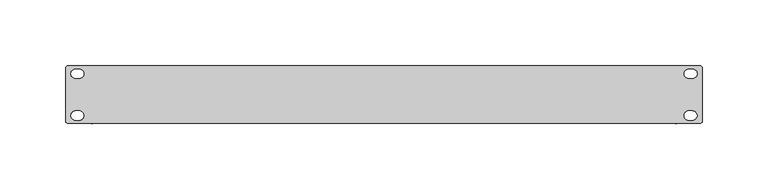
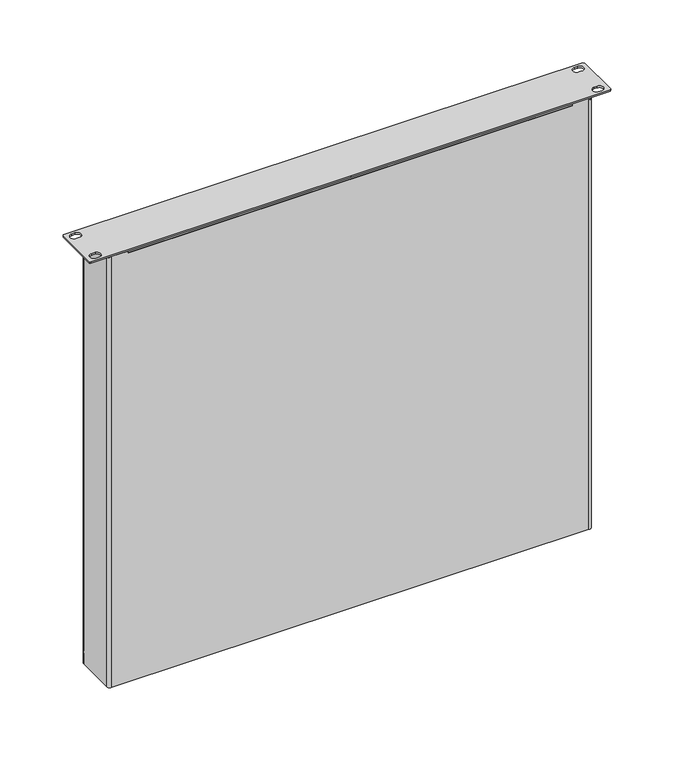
"""IFC4 building model written with IfcOpenShell, lengths in millimetres: proxy geometry, A RK TCR +COMMUN : A RK TCR +COMMUN."""

from ifc_helpers import new_model, si_unit, point, frame, frame_2d, origin, origin_with_axes, place, context, project, spatial, polyline, circle_curve, trimmed, segment, composite_curve, outline, extrude, source, transform, mapped, element, save
from ifc_brep_helpers import plane_surface, cylinder_surface, advanced_brep


def electrical_equipment_423b28fd(model_context):
    return source(origin(), model_context, "Body", "SolidModel", [
        extrude(outline(composite_curve([segment(trimmed(circle_curve(frame_2d((175.8425927, 35.141806)), 4.0115685), [point((171.8310242, 35.141806))], [point((179.8541612, 35.141806))], False, "CARTESIAN"), True, "CONTINUOUS"), segment(trimmed(circle_curve(frame_2d((175.8425927, 35.141806)), 4.0115685), [point((179.8541612, 35.141806))], [point((171.8310242, 35.141806))], False, "CARTESIAN"), True, "CONTINUOUS")], self_intersect=False)), frame((0.0, 0.0, 8.3), z_axis=(0.0, 0.0, 1.0), x_axis=(1.0, 0.0, 0.0)), (0.0, 0.0, 1.0), 2.5),
        extrude(outline(composite_curve([segment(trimmed(circle_curve(frame_2d((-174.1070655, 35.063681)), 4.0115685), [point((-178.118634, 35.063681))], [point((-170.095497, 35.063681))], False, "CARTESIAN"), True, "CONTINUOUS"), segment(trimmed(circle_curve(frame_2d((-174.1070655, 35.063681)), 4.0115685), [point((-170.095497, 35.063681))], [point((-178.118634, 35.063681))], False, "CARTESIAN"), True, "CONTINUOUS")], self_intersect=False)), frame((0.0, 0.0, 8.3), z_axis=(0.0, 0.0, 1.0), x_axis=(1.0, 0.0, 0.0)), (0.0, 0.0, 1.0), 2.5),
        extrude(outline(composite_curve([segment(trimmed(circle_curve(frame_2d((-130.4596642, 22.66)), 4.0115685), [point((-134.4712327, 22.66))], [point((-126.4480956, 22.66))], False, "CARTESIAN"), True, "CONTINUOUS"), segment(trimmed(circle_curve(frame_2d((-130.4596642, 22.66)), 4.0115685), [point((-126.4480956, 22.66))], [point((-134.4712327, 22.66))], False, "CARTESIAN"), True, "CONTINUOUS")], self_intersect=False)), origin_with_axes(), (0.0, 0.0, 1.0), 10.8),
        extrude(outline(polyline([(242.2302016, 1.0), (241.2302016, 0.0), (1.1174526, 0.0), (-239.3697984, 0.0), (-240.3697984, 1.0), (-240.3697984, 42.66), (-239.3697984, 43.66), (154.0869854, 43.66), (241.2302016, 43.66), (242.2302016, 42.66), (242.2302016, 1.0)]), holes=[composite_curve([segment(polyline([(-230.1397984, 41.21), (-233.1397984, 41.21)]), True, "CONTINUOUS"), segment(trimmed(circle_curve(frame_2d((-233.1397984, 37.71)), 3.5), [point((-233.1397984, 41.21))], [point((-233.1397984, 34.21))], True, "CARTESIAN"), True, "CONTINUOUS"), segment(polyline([(-233.1397984, 34.21), (-230.1397984, 34.21)]), True, "CONTINUOUS"), segment(trimmed(circle_curve(frame_2d((-230.1397984, 37.71)), 3.5), [point((-230.1397984, 34.21))], [point((-230.1397984, 41.21))], True, "CARTESIAN"), True, "CONTINUOUS")], self_intersect=False), composite_curve([segment(polyline([(-229.6066754, 9.46), (-233.1397984, 9.46)]), True, "CONTINUOUS"), segment(trimmed(circle_curve(frame_2d((-233.1397984, 5.96)), 3.5), [point((-233.1397984, 9.46))], [point((-233.1397984, 2.46))], True, "CARTESIAN"), True, "CONTINUOUS"), segment(polyline([(-233.1397984, 2.46), (-229.6066754, 2.46)]), True, "CONTINUOUS"), segment(trimmed(circle_curve(frame_2d((-230.3501238, 5.96)), 3.5780883), [point((-229.6066754, 2.46))], [point((-229.6066754, 9.46))], True, "CARTESIAN"), True, "CONTINUOUS")], self_intersect=False), composite_curve([segment(trimmed(circle_curve(frame_2d((232.0147984, 37.71)), 3.5), [point((232.0147984, 41.21))], [point((232.0147984, 34.21))], True, "CARTESIAN"), True, "CONTINUOUS"), segment(polyline([(232.0147984, 34.21), (235.0147984, 34.21)]), True, "CONTINUOUS"), segment(trimmed(circle_curve(frame_2d((235.0147984, 37.71)), 3.5), [point((235.0147984, 34.21))], [point((235.0147984, 41.21))], True, "CARTESIAN"), True, "CONTINUOUS"), segment(polyline([(235.0147984, 41.21), (232.0147984, 41.21)]), True, "CONTINUOUS")], self_intersect=False), composite_curve([segment(trimmed(circle_curve(frame_2d((232.1469988, 5.96)), 3.5780883), [point((231.4035504, 9.46))], [point((231.4035504, 2.46))], True, "CARTESIAN"), True, "CONTINUOUS"), segment(polyline([(231.4035504, 2.46), (234.9366734, 2.46)]), True, "CONTINUOUS"), segment(trimmed(circle_curve(frame_2d((234.9366734, 5.96)), 3.5), [point((234.9366734, 2.46))], [point((234.9366734, 9.46))], True, "CARTESIAN"), True, "CONTINUOUS"), segment(polyline([(234.9366734, 9.46), (231.4035504, 9.46)]), True, "CONTINUOUS")], self_intersect=False)]), frame((0.0, 0.0, 432.3), z_axis=(0.0, 0.0, 1.0), x_axis=(1.0, 0.0, 0.0)), (0.0, 0.0, 1.0), 1.5),
        advanced_brep(
        [(-223.0697984, 39.66, 10.8), (-220.0697984, 42.66, 10.8), (214.9302016, 42.66, 10.8), (222.2096469, 42.66, 10.8), (224.9302016, 39.66, 10.8), (224.9302016, 2.5, 10.8), (221.6802016, 0.0, 10.8), (-219.8197984, 0.0, 10.8), (-223.0697984, 2.5, 10.8), (-205.0697984, 42.66, 432.3), (-220.0697984, 42.66, 432.3), (-221.6802016, 42.1911265, 432.3), (-221.6802016, 0.2070735, 432.3), (-219.8197984, 0.0, 432.3), (-205.0697984, 0.0, 432.3), (-205.0697984, 0.5332309, 432.3), (206.9302016, 0.5332309, 432.3), (206.9302016, 0.0, 432.3), (221.6802016, 0.0, 432.3), (221.6802016, 42.66, 432.3), (214.9302016, 42.66, 432.3), (206.9302016, 42.66, 432.3), (206.9302016, 42.1267691, 432.3), (-205.0697984, 42.1267691, 432.3), (-223.0697984, 39.66, 21.3), (-220.0697984, 42.66, 21.3), (-220.0697984, 42.66, 23.3), (-223.0697984, 39.66, 23.3), (-223.0697984, 39.66, 430.8), (-221.6802016, 42.1911265, 430.8), (-213.0697984, 42.66, 21.3), (-213.0697984, 42.66, 23.3), (-205.0697984, 42.66, 430.3), (206.9302016, 42.66, 430.3), (214.9302016, 42.66, 23.3), (213.0697984, 42.66, 23.3), (213.0697984, 42.66, 21.3), (214.9302016, 42.66, 21.3), (222.2096469, 42.66, 21.3), (221.6802016, 42.66, 430.8), (222.2096469, 42.66, 430.8), (222.2096469, 42.66, 23.3), (223.0697984, 42.4447297, 21.3), (223.0697984, 42.4447297, 23.3), (224.9302016, 39.66, 430.8), (224.9302016, 2.5, 430.8), (221.6802016, 0.0, 430.8), (206.9302016, 0.0, 430.3), (-205.0697984, 0.0, 430.3), (-221.6802016, 0.2070735, 430.8), (-223.0697984, 2.5, 430.8), (-213.0697984, 39.66, 23.3), (-213.0697984, 39.66, 21.3), (213.0697984, 39.66, 23.3), (213.0697984, 39.66, 21.3), (223.0697984, 39.66, 21.3), (223.0697984, 39.66, 23.3), (206.9302016, 42.1267691, 430.3), (-205.0697984, 42.1267691, 430.3), (-205.0697984, 0.5332309, 430.3), (206.9302016, 0.5332309, 430.3)],
        [
            (0, 1, circle_curve(frame((-220.0697984, 39.66, 10.8), z_axis=(0.0, 0.0, -1.0), x_axis=(-1.0, 0.0, 0.0)), 3.0)),
            (1, 2),
            (2, 3),
            (3, 4, circle_curve(frame((221.9158498, 39.66, 10.8), z_axis=(0.0, 0.0, -1.0), x_axis=(-1.0, 0.0, 0.0)), 3.0143518)),
            (4, 5),
            (5, 6, circle_curve(frame((222.3436632, 2.5, 10.8), z_axis=(0.0, 0.0, -1.0), x_axis=(-1.0, 0.0, 0.0)), 2.5865385)),
            (6, 7),
            (7, 8, circle_curve(frame((-220.4832599, 2.5, 10.8), z_axis=(0.0, 0.0, -1.0), x_axis=(-1.0, 0.0, 0.0)), 2.5865385)),
            (8, 0),
            (9, 10),
            (10, 11, circle_curve(frame((-220.0697984, 39.66, 432.3), z_axis=(0.0, 0.0, 1.0), x_axis=(-1.0, 0.0, 0.0)), 3.0)),
            (11, 12),
            (12, 13, circle_curve(frame((-220.4832599, 2.5, 432.3), z_axis=(0.0, 0.0, 1.0), x_axis=(-1.0, 0.0, 0.0)), 2.5865385)),
            (13, 14),
            (14, 15),
            (15, 16),
            (16, 17),
            (17, 18),
            (18, 19),
            (19, 20),
            (20, 21),
            (21, 22),
            (22, 23),
            (23, 9),
            (0, 24),
            (24, 25, circle_curve(frame((-220.0697984, 39.66, 21.3), z_axis=(0.0, 0.0, -1.0), x_axis=(-1.0, 0.0, 0.0)), 3.0)),
            (25, 1),
            (10, 26),
            (26, 27, circle_curve(frame((-220.0697984, 39.66, 23.3), z_axis=(0.0, 0.0, 1.0), x_axis=(-1.0, 0.0, 0.0)), 3.0)),
            (27, 28),
            (28, 29, circle_curve(frame((-220.0697984, 39.66, 430.8), z_axis=(0.0, 0.0, -1.0), x_axis=(-1.0, 0.0, 0.0)), 3.0)),
            (29, 11),
            (25, 30),
            (30, 31),
            (31, 26),
            (9, 32),
            (32, 33),
            (33, 21),
            (20, 34),
            (34, 35),
            (35, 36),
            (36, 37),
            (37, 2),
            (37, 38),
            (38, 3),
            (19, 39),
            (39, 40),
            (40, 41),
            (41, 34),
            (38, 42, circle_curve(frame((221.9158498, 39.66, 21.3), z_axis=(0.0, 0.0, -1.0), x_axis=(-1.0, 0.0, 0.0)), 3.0143518)),
            (42, 43),
            (43, 41, circle_curve(frame((221.9158498, 39.66, 23.3), z_axis=(0.0, 0.0, 1.0), x_axis=(-1.0, 0.0, 0.0)), 3.0143518)),
            (40, 44, circle_curve(frame((221.9158498, 39.66, 430.8), z_axis=(0.0, 0.0, -1.0), x_axis=(-1.0, 0.0, 0.0)), 3.0143518)),
            (44, 4),
            (44, 45),
            (45, 5),
            (45, 46, circle_curve(frame((222.3436632, 2.5, 430.8), z_axis=(0.0, 0.0, -1.0), x_axis=(-1.0, 0.0, 0.0)), 2.5865385)),
            (46, 6),
            (46, 18),
            (17, 47),
            (47, 48),
            (48, 14),
            (13, 7),
            (12, 49),
            (49, 50, circle_curve(frame((-220.4832599, 2.5, 430.8), z_axis=(0.0, 0.0, -1.0), x_axis=(-1.0, 0.0, 0.0)), 2.5865385)),
            (50, 8),
            (50, 28),
            (27, 24),
            (51, 31),
            (30, 52),
            (52, 51),
            (52, 24),
            (27, 51),
            (53, 54),
            (54, 36),
            (35, 53),
            (55, 56),
            (56, 43),
            (42, 55),
            (53, 56),
            (55, 54),
            (22, 57),
            (57, 58),
            (58, 23),
            (58, 32),
            (57, 33),
            (15, 59),
            (59, 60),
            (60, 16),
            (48, 59),
            (47, 60),
            (46, 39),
            (29, 49),
        ],
        [
            plane_surface(frame((-223.0697984, 39.66, 10.8), z_axis=(0.0, 0.0, -1.0), x_axis=(0.0, 1.0, 0.0))),
            plane_surface(frame((-223.0697984, 39.66, 432.3), z_axis=(0.0, 0.0, 1.0), x_axis=(0.0, -1.0, 0.0))),
            cylinder_surface(frame((-220.0697984, 39.66, 432.3), z_axis=(0.0, 0.0, -1.0), x_axis=(-1.0, 0.0, 0.0)), 3.0),
            plane_surface(frame((-220.0697984, 42.66, 10.8), z_axis=(0.0, 1.0, 0.0), x_axis=(0.0, 0.0, 1.0))),
            plane_surface(frame((214.9302016, 42.66, 10.8), z_axis=(0.0, 1.0, 0.0), x_axis=(0.0, 0.0, 1.0))),
            cylinder_surface(frame((221.9158498, 39.66, 432.3), z_axis=(0.0, 0.0, -1.0), x_axis=(-1.0, 0.0, 0.0)), 3.0143518),
            plane_surface(frame((224.9302016, 39.66, 10.8), z_axis=(1.0, 0.0, 0.0), x_axis=(0.0, 0.0, 1.0))),
            cylinder_surface(frame((222.3436632, 2.5, 432.3), z_axis=(0.0, 0.0, -1.0), x_axis=(-1.0, 0.0, 0.0)), 2.5865385),
            plane_surface(frame((221.6802016, 0.0, 10.8), z_axis=(0.0, -1.0, 0.0), x_axis=(0.0, 0.0, 1.0))),
            cylinder_surface(frame((-220.4832599, 2.5, 432.3), z_axis=(0.0, 0.0, -1.0), x_axis=(-1.0, 0.0, 0.0)), 2.5865385),
            plane_surface(frame((-223.0697984, 2.5, 10.8), z_axis=(-1.0, 0.0, 0.0), x_axis=(0.0, 0.0, 1.0))),
            plane_surface(frame((-213.0697984, 39.66, 21.3), z_axis=(-1.0, 0.0, 0.0), x_axis=(0.0, 0.0, -1.0))),
            plane_surface(frame((-213.0697984, 39.66, 23.3), z_axis=(0.0, 1.0, 0.0), x_axis=(-1.0, 0.0, 0.0))),
            plane_surface(frame((-213.0697984, 39.66, 21.3), z_axis=(0.0, 0.0, 1.0), x_axis=(-1.0, 0.0, 0.0))),
            plane_surface(frame((-213.0697984, 42.66, 23.3), z_axis=(0.0, 0.0, -1.0), x_axis=(-1.0, 0.0, 0.0))),
            plane_surface(frame((213.0697984, 39.66, 23.3), z_axis=(1.0, 0.0, 0.0), x_axis=(0.0, 1.0, 0.0))),
            plane_surface(frame((223.0697984, 39.66, 23.3), z_axis=(-1.0, 0.0, 0.0), x_axis=(0.0, -1.0, 0.0))),
            plane_surface(frame((213.0697984, 39.66, 21.3), z_axis=(0.0, 1.0, 0.0), x_axis=(1.0, 0.0, 0.0))),
            plane_surface(frame((213.0697984, 42.66, 21.3), z_axis=(0.0, 0.0, 1.0), x_axis=(1.0, 0.0, 0.0))),
            plane_surface(frame((213.0697984, 39.66, 23.3), z_axis=(0.0, 0.0, -1.0), x_axis=(1.0, 0.0, 0.0))),
            plane_surface(frame((-205.0697984, 42.1267691, 432.3), z_axis=(0.0, 1.0, 0.0), x_axis=(0.0, 0.0, -1.0))),
            plane_surface(frame((-205.0697984, 42.1267691, 432.3), z_axis=(1.0, 0.0, 0.0), x_axis=(0.0, 1.0, 0.0))),
            plane_surface(frame((-205.0697984, 42.1267691, 430.3), z_axis=(0.0, 0.0, 1.0), x_axis=(0.0, 1.0, 0.0))),
            plane_surface(frame((206.9302016, 42.1267691, 430.3), z_axis=(-1.0, 0.0, 0.0), x_axis=(0.0, 1.0, 0.0))),
            plane_surface(frame((206.9302016, 0.5332309, 432.3), z_axis=(0.0, -1.0, 0.0), x_axis=(1.0, 0.0, 0.0))),
            plane_surface(frame((-205.0697984, 0.5332309, 430.3), z_axis=(1.0, 0.0, 0.0), x_axis=(0.0, -1.0, 0.0))),
            plane_surface(frame((206.9302016, 0.5332309, 430.3), z_axis=(0.0, 0.0, 1.0), x_axis=(0.0, -1.0, 0.0))),
            plane_surface(frame((206.9302016, 0.5332309, 432.3), z_axis=(-1.0, 0.0, 0.0), x_axis=(0.0, -1.0, 0.0))),
            plane_surface(frame((221.6802016, 42.66, 432.3), z_axis=(1.0, 0.0, 0.0), x_axis=(0.0, 0.0, -1.0))),
            plane_surface(frame((221.6802016, 42.66, 430.8), z_axis=(0.0, 0.0, 1.0), x_axis=(1.0, 0.0, 0.0))),
            plane_surface(frame((-221.6802016, 0.0, 432.3), z_axis=(-1.0, 0.0, 0.0), x_axis=(0.0, -1.0, 0.0))),
            plane_surface(frame((-221.6802016, -0.2774181, 430.8), z_axis=(0.0, 0.0, 1.0), x_axis=(-1.0, 0.0, 0.0))),
        ],
        [
            (0, [[1, 2, 3, 4, 5, 6, 7, 8, 9]]),
            (1, [[10, 11, 12, 13, 14, 15, 16, 17, 18, 19, 20, 21, 22, 23, 24]]),
            (2, [[-1, 25, 26, 27]]),
            (2, [[28, 29, 30, 31, 32, -11]]),
            (3, [[-2, -27, 33, 34, 35, -28, -10, 36, 37, 38, -21, 39, 40, 41, 42, 43]]),
            (4, [[-3, -43, 44, 45]]),
            (4, [[-39, -20, 46, 47, 48, 49]]),
            (5, [[-4, -45, 50, 51, 52, -48, 53, 54]]),
            (6, [[-5, -54, 55, 56]]),
            (7, [[-6, -56, 57, 58]]),
            (8, [[-7, -58, 59, -18, 60, 61, 62, -14, 63]]),
            (9, [[-8, -63, -13, 64, 65, 66]]),
            (10, [[-9, -66, 67, -30, 68, -25]]),
            (11, [[69, -34, 70, 71]]),
            (12, [[-71, 72, -68, 73]]),
            (13, [[-70, -33, -26, -72]]),
            (14, [[-69, -73, -29, -35]]),
            (15, [[74, 75, -41, 76]]),
            (16, [[77, 78, -51, 79]]),
            (17, [[-74, 80, -77, 81]]),
            (18, [[-75, -81, -79, -50, -44, -42]]),
            (19, [[-76, -40, -49, -52, -78, -80]]),
            (20, [[82, 83, 84, -23]]),
            (21, [[-84, 85, -36, -24]]),
            (22, [[-83, 86, -37, -85]]),
            (23, [[-82, -22, -38, -86]]),
            (24, [[87, 88, 89, -16]]),
            (25, [[-87, -15, -62, 90]]),
            (26, [[-88, -90, -61, 91]]),
            (27, [[-89, -91, -60, -17]]),
            (28, [[92, -46, -19, -59]]),
            (29, [[-92, -57, -55, -53, -47]]),
            (30, [[93, -64, -12, -32]]),
            (31, [[-93, -31, -67, -65]]),
        ],
    ),
        extrude(outline(polyline([(44.6373084, 9.5), (-87.3626916, 9.5), (-87.3626916, 27.0), (44.6373084, 27.0), (44.6373084, 9.5)])), frame((0.0, 0.0, 10.8), z_axis=(0.0, 0.0, 1.0), x_axis=(1.0, 0.0, 0.0)), (0.0, 0.0, 1.0), 5.0),
    ])


if __name__ == "__main__":
    model = new_model("IFC4")
    model_context = context("Model", 3, world=origin())
    ifc_project = project(units=[si_unit("LENGTHUNIT", "METRE", prefix="MILLI")], contexts=[model_context])
    site = spatial("IfcSite", under=ifc_project)
    building = spatial("IfcBuilding", under=site)
    placement = place(None, origin())
    electrical_equipment_shape = electrical_equipment_423b28fd(model_context)
    element("IfcBuildingElementProxy", 1, Name="A RK TCR +COMMUN : A RK TCR +COMMUN", ObjectType="A RK TCR +COMMUN : A RK TCR +COMMUN", at=placement, inside=building, context=model_context, shape_type="MappedRepresentation", body=[
        mapped(electrical_equipment_shape, transform((0.0, 0.0, 0.0), x_axis=(1.0, 0.0, 0.0), y_axis=(0.0, 1.0, 0.0), z_axis=(0.0, 0.0, 1.0))),
    ])
    save(model, "model.ifc")
